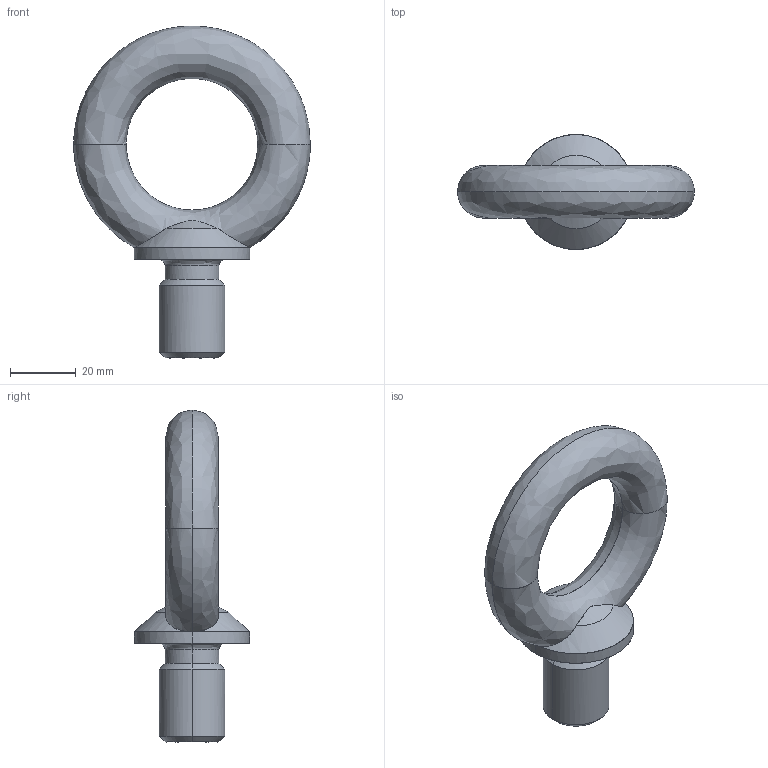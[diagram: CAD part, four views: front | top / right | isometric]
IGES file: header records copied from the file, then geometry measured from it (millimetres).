
Global section: file name: E:\UnigraphicsGraphicData\MISUMI_PRESS-PARTS\IGES\3d_chi20_03530_r00.igs; native system: NX V5.0; preprocessor: UGS NX IGES V5.0; author: MISUMI; date: 20110105.160218; units: millimetre
Bounding box: 72 x 35 x 101 mm (x, y, z)
Surface area: 11806.8 mm2 (no closed solid volume)
Topology: 0 solids, 0 shells, 22 faces, 132 edges, 132 vertices
Faces by surface type: bspline 22
